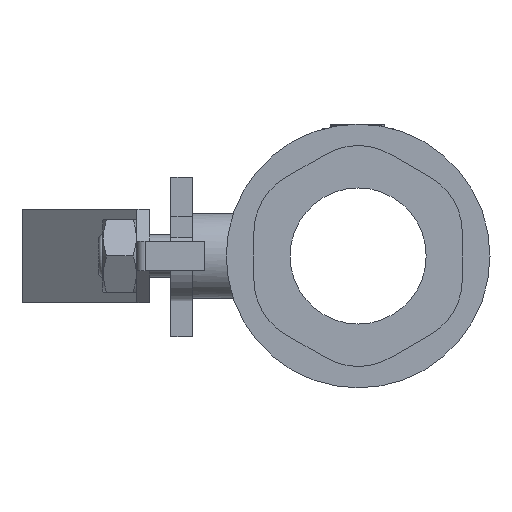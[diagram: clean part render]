
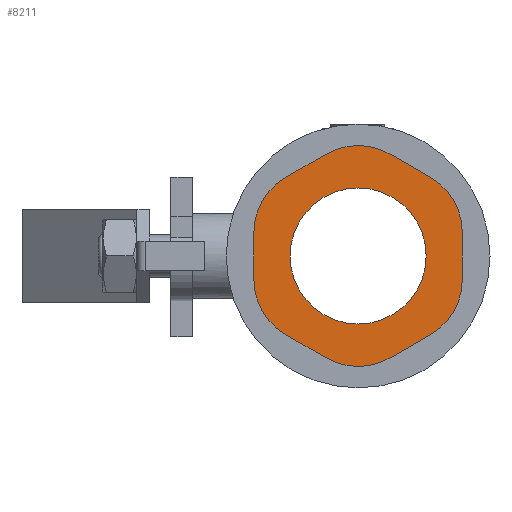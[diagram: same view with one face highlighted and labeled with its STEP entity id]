
A CAD part, left-side view. The second image highlights one B-rep face of the part: STEP entity #8211.
In plain terms, the highlighted planar face has unit normal (-1, 0, 0).
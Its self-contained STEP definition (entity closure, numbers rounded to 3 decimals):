
#8211=ADVANCED_FACE('',(#14718,#14720),#14722,.T.);
#14718=FACE_BOUND('',#14719,.T.);
#14719=EDGE_LOOP('',(#20086,#20087,#20088,#20089,#20090,#20091,#20092,#20093,#20094,
#20095,#20096,#20097));
#14720=FACE_BOUND('',#14721,.T.);
#14721=EDGE_LOOP('',(#20098));
#14722=PLANE('',#14723);
#14723=AXIS2_PLACEMENT_3D('',#14724,#14725,#14726);
#14724=CARTESIAN_POINT('',(3538.32,1428.427,-9.5));
#14725=DIRECTION('',(-1.,0.,0.));
#14726=DIRECTION('',(0.,0.,1.));
#20086=ORIENTED_EDGE('',*,*,#22795,.F.);
#20087=ORIENTED_EDGE('',*,*,#22801,.T.);
#20088=ORIENTED_EDGE('',*,*,#22812,.F.);
#20089=ORIENTED_EDGE('',*,*,#22817,.T.);
#20090=ORIENTED_EDGE('',*,*,#22818,.F.);
#20091=ORIENTED_EDGE('',*,*,#22823,.T.);
#20092=ORIENTED_EDGE('',*,*,#22824,.F.);
#20093=ORIENTED_EDGE('',*,*,#22827,.T.);
#20094=ORIENTED_EDGE('',*,*,#22809,.F.);
#20095=ORIENTED_EDGE('',*,*,#22806,.T.);
#20096=ORIENTED_EDGE('',*,*,#22802,.F.);
#20097=ORIENTED_EDGE('',*,*,#22829,.T.);
#20098=ORIENTED_EDGE('',*,*,#22794,.T.);
#22794=EDGE_CURVE('',#27192,#27192,#27193,.T.);
#22795=EDGE_CURVE('',#27194,#27195,#27196,.T.);
#22801=EDGE_CURVE('',#27194,#27204,#27206,.T.);
#22802=EDGE_CURVE('',#27207,#27208,#27209,.T.);
#22806=EDGE_CURVE('',#27215,#27208,#27216,.T.);
#22809=EDGE_CURVE('',#27215,#27220,#27221,.T.);
#22812=EDGE_CURVE('',#27225,#27204,#27226,.T.);
#22817=EDGE_CURVE('',#27225,#27232,#27234,.T.);
#22818=EDGE_CURVE('',#27235,#27232,#27236,.T.);
#22823=EDGE_CURVE('',#27235,#27242,#27244,.T.);
#22824=EDGE_CURVE('',#27245,#27242,#27246,.T.);
#22827=EDGE_CURVE('',#27245,#27220,#27250,.T.);
#22829=EDGE_CURVE('',#27207,#27195,#27252,.T.);
#27192=VERTEX_POINT('',#37600);
#27193=CIRCLE('',#37601,16.);
#27194=VERTEX_POINT('',#37605);
#27195=VERTEX_POINT('',#37606);
#27196=CIRCLE('',#37607,15.);
#27204=VERTEX_POINT('',#37627);
#27206=LINE('',#37631,#37632);
#27207=VERTEX_POINT('',#37634);
#27208=VERTEX_POINT('',#37635);
#27209=CIRCLE('',#37636,15.);
#27215=VERTEX_POINT('',#37652);
#27216=LINE('',#37653,#37654);
#27220=VERTEX_POINT('',#37663);
#27221=CIRCLE('',#37664,15.);
#27225=VERTEX_POINT('',#37676);
#27226=CIRCLE('',#37677,15.);
#27232=VERTEX_POINT('',#37693);
#27234=LINE('',#37697,#37698);
#27235=VERTEX_POINT('',#37700);
#27236=CIRCLE('',#37701,15.);
#27242=VERTEX_POINT('',#37717);
#27244=LINE('',#37721,#37722);
#27245=VERTEX_POINT('',#37724);
#27246=CIRCLE('',#37725,15.);
#27250=LINE('',#37737,#37738);
#27252=LINE('',#37743,#37744);
#37600=CARTESIAN_POINT('',(3538.32,1412.427,-9.5));
#37601=AXIS2_PLACEMENT_3D('',#37602,#37603,#37604);
#37602=CARTESIAN_POINT('',(3538.32,1428.427,-9.5));
#37603=DIRECTION('',(1.,0.,0.));
#37604=DIRECTION('',(0.,-1.,0.));
#37605=CARTESIAN_POINT('',(3538.32,1420.927,-33.46));
#37606=CARTESIAN_POINT('',(3538.32,1435.927,-33.46));
#37607=AXIS2_PLACEMENT_3D('',#37608,#37609,#37610);
#37608=CARTESIAN_POINT('',(3538.32,1428.427,-20.47));
#37609=DIRECTION('',(1.,0.,0.));
#37610=DIRECTION('',(0.,-0.5,-0.866));
#37627=CARTESIAN_POINT('',(3538.32,1411.427,-27.975));
#37631=CARTESIAN_POINT('',(3538.32,1420.927,-33.46));
#37632=VECTOR('',#37633,1.);
#37633=DIRECTION('',(0.,-0.866,0.5));
#37634=CARTESIAN_POINT('',(3538.32,1445.427,-27.975));
#37635=CARTESIAN_POINT('',(3538.32,1452.927,-14.985));
#37636=AXIS2_PLACEMENT_3D('',#37637,#37638,#37639);
#37637=CARTESIAN_POINT('',(3538.32,1437.927,-14.985));
#37638=DIRECTION('',(1.,0.,0.));
#37639=DIRECTION('',(0.,0.5,-0.866));
#37652=CARTESIAN_POINT('',(3538.32,1452.927,-4.015));
#37653=CARTESIAN_POINT('',(3538.32,1452.927,-4.015));
#37654=VECTOR('',#37655,1.);
#37655=DIRECTION('',(0.,0.,-1.));
#37663=CARTESIAN_POINT('',(3538.32,1445.427,8.975));
#37664=AXIS2_PLACEMENT_3D('',#37665,#37666,#37667);
#37665=CARTESIAN_POINT('',(3538.32,1437.927,-4.015));
#37666=DIRECTION('',(1.,0.,0.));
#37667=DIRECTION('',(0.,1.,0.));
#37676=CARTESIAN_POINT('',(3538.32,1403.927,-14.985));
#37677=AXIS2_PLACEMENT_3D('',#37678,#37679,#37680);
#37678=CARTESIAN_POINT('',(3538.32,1418.927,-14.985));
#37679=DIRECTION('',(1.,0.,0.));
#37680=DIRECTION('',(0.,-1.,0.));
#37693=CARTESIAN_POINT('',(3538.32,1403.927,-4.015));
#37697=CARTESIAN_POINT('',(3538.32,1403.927,-14.985));
#37698=VECTOR('',#37699,1.);
#37699=DIRECTION('',(0.,0.,1.));
#37700=CARTESIAN_POINT('',(3538.32,1411.427,8.975));
#37701=AXIS2_PLACEMENT_3D('',#37702,#37703,#37704);
#37702=CARTESIAN_POINT('',(3538.32,1418.927,-4.015));
#37703=DIRECTION('',(1.,0.,0.));
#37704=DIRECTION('',(0.,-0.5,0.866));
#37717=CARTESIAN_POINT('',(3538.32,1420.927,14.46));
#37721=CARTESIAN_POINT('',(3538.32,1411.427,8.975));
#37722=VECTOR('',#37723,1.);
#37723=DIRECTION('',(0.,0.866,0.5));
#37724=CARTESIAN_POINT('',(3538.32,1435.927,14.46));
#37725=AXIS2_PLACEMENT_3D('',#37726,#37727,#37728);
#37726=CARTESIAN_POINT('',(3538.32,1428.427,1.47));
#37727=DIRECTION('',(1.,0.,0.));
#37728=DIRECTION('',(0.,0.5,0.866));
#37737=CARTESIAN_POINT('',(3538.32,1435.927,14.46));
#37738=VECTOR('',#37739,1.);
#37739=DIRECTION('',(0.,0.866,-0.5));
#37743=CARTESIAN_POINT('',(3538.32,1445.427,-27.975));
#37744=VECTOR('',#37745,1.);
#37745=DIRECTION('',(0.,-0.866,-0.5));
